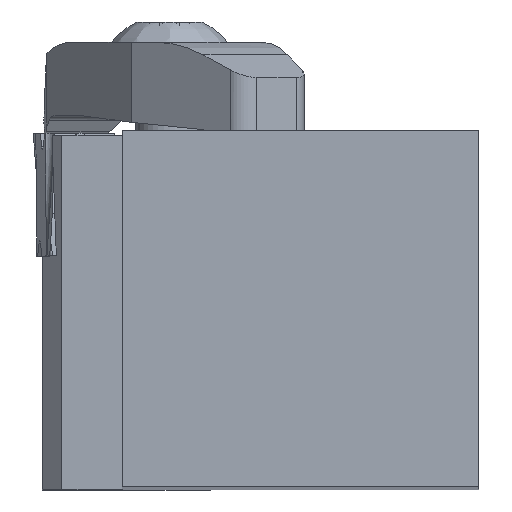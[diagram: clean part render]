
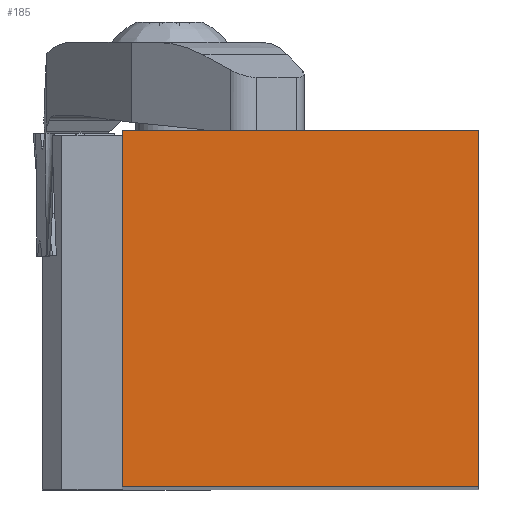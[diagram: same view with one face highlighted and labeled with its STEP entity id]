
A CAD part, top view. The second image highlights one B-rep face of the part: STEP entity #185.
In plain terms, the highlighted planar face has unit normal (0, 0, 1).
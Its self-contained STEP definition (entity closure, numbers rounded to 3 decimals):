
#185=ADVANCED_FACE('',(#381),#313,.F.);
#313=PLANE('',#2510);
#381=FACE_OUTER_BOUND('',#502,.T.);
#502=EDGE_LOOP('',(#663,#664,#665,#666));
#663=ORIENTED_EDGE('',*,*,#1579,.T.);
#664=ORIENTED_EDGE('',*,*,#1572,.F.);
#665=ORIENTED_EDGE('',*,*,#1589,.F.);
#666=ORIENTED_EDGE('',*,*,#1590,.T.);
#1337=VERTEX_POINT('',#3490);
#1338=VERTEX_POINT('',#3492);
#1340=VERTEX_POINT('',#3497);
#1349=VERTEX_POINT('',#3524);
#1572=EDGE_CURVE('',#1337,#1338,#2067,.T.);
#1579=EDGE_CURVE('',#1340,#1338,#2074,.T.);
#1589=EDGE_CURVE('',#1349,#1337,#2084,.T.);
#1590=EDGE_CURVE('',#1349,#1340,#2085,.T.);
#2067=LINE('',#3491,#2289);
#2074=LINE('',#3505,#2296);
#2084=LINE('',#3523,#2306);
#2085=LINE('',#3525,#2307);
#2289=VECTOR('',#2772,1.);
#2296=VECTOR('',#2781,1.);
#2306=VECTOR('',#2797,1.);
#2307=VECTOR('',#2798,1.);
#2510=AXIS2_PLACEMENT_3D('',#3526,#2799,#2800);
#2772=DIRECTION('',(0.,-1.,0.));
#2781=DIRECTION('',(1.,0.,0.));
#2797=DIRECTION('',(1.,0.,0.));
#2798=DIRECTION('',(0.,-1.,0.));
#2799=DIRECTION('',(0.,0.,-1.));
#2800=DIRECTION('',(-1.,0.,0.));
#3490=CARTESIAN_POINT('',(0.,25.4,0.));
#3491=CARTESIAN_POINT('',(0.,25.21,0.));
#3492=CARTESIAN_POINT('',(0.,0.,0.));
#3497=CARTESIAN_POINT('',(-25.4,0.,0.));
#3505=CARTESIAN_POINT('',(-25.21,0.,0.));
#3523=CARTESIAN_POINT('',(-25.21,25.4,0.));
#3524=CARTESIAN_POINT('',(-25.4,25.4,0.));
#3525=CARTESIAN_POINT('',(-25.4,25.21,0.));
#3526=CARTESIAN_POINT('',(-25.21,25.21,0.));
